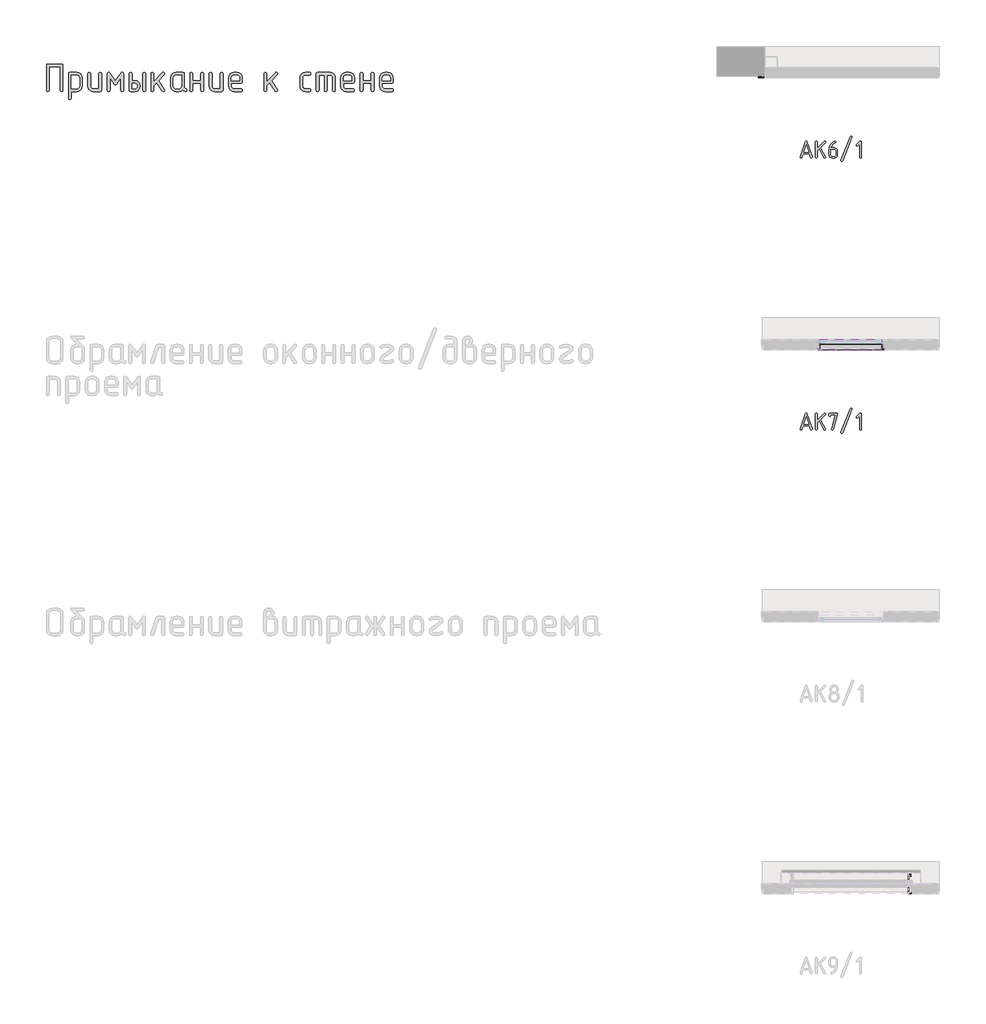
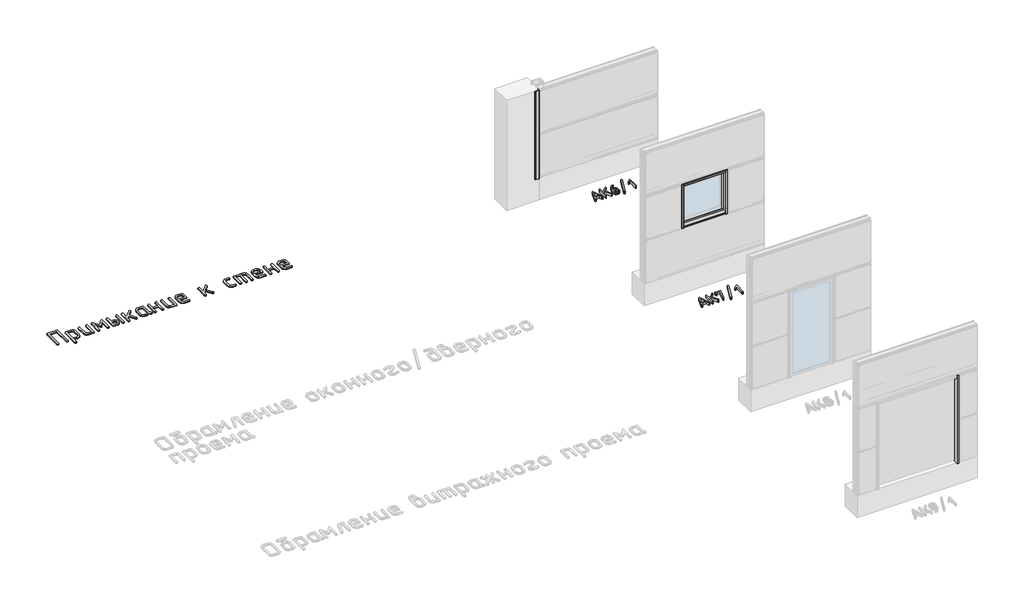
# One storey, part 8 of 37: 9 proxies.
"""IFC4 building model written with IfcOpenShell, lengths in millimetres."""

from ifc_helpers import new_model, si_unit, origin, origin_with_axes, place, context, project, spatial, polyline, outline, extrude, transform, mapped, element, save
from components import generic_models_95d36169, generic_models_f476a873, generic_models_40eecb82, generic_models_c30bbdda, generic_models_594ef7aa, generic_models_743b026b

model = new_model("IFC4")

# Units and contexts
model_context = context("Model", 3, world=origin())
ifc_project = project(units=[si_unit("LENGTHUNIT", "METRE", prefix="MILLI")], contexts=[model_context])

# Site, building, storey
site = spatial("IfcSite", under=ifc_project)
building = spatial("IfcBuilding", under=site)
storey = spatial("IfcBuildingStorey", under=building, Name="Этаж 01", Elevation=0.0)

# Proxies
placement = place(None, origin())
element("IfcBuildingElementProxy", 1, Name="250 мм ГОСТ 2.304", ObjectType="250 мм ГОСТ 2.304", at=placement, inside=storey, context=model_context, shape_type="SweptSolid", body=[
    extrude(outline(polyline([(46420.8154984, -34426.1300608), (46402.9821438, -34480.0681368), (46398.7740979, -34486.3567408), (46391.2809603, -34488.4529422), (46382.5207159, -34485.1678505), (46378.5160328, -34476.8143318), (46379.6423499, -34472.0587706), (46454.3547197, -34247.9216611), (46459.2667139, -34239.9905113), (46465.9933301, -34237.3467947), (46473.0953853, -34239.9905113), (46477.6319404, -34247.9216611), (46552.7197493, -34472.0587706), (46553.4706274, -34476.8143318), (46549.4659443, -34485.1678505), (46540.7056999, -34488.4529422), (46535.2618338, -34487.7646372), (46529.0670895, -34480.0681368), (46511.1711617, -34426.1300608), (46420.8154984, -34426.1300608)]), holes=[polyline([(46502.7863564, -34400.9756448), (46465.9933301, -34290.9720048), (46429.2003037, -34400.9756448), (46502.7863564, -34400.9756448)])]), origin_with_axes(), (0.0, 0.0, 1.0), 50.0),
    extrude(outline(polyline([(46626.4935215, -34347.4130078), (46731.0532954, -34243.5415389), (46739.8135397, -34239.5368558), (46748.7615036, -34243.385106), (46752.5784672, -34252.3017833), (46748.5737841, -34261.0620276), (46674.6122924, -34335.0235194), (46750.7638452, -34470.2441485), (46752.5784672, -34476.8143318), (46748.5737841, -34485.7310091), (46739.4381007, -34489.2038202), (46733.3528595, -34487.4674147), (46728.8632343, -34482.2581979), (46656.0280597, -34352.1685691), (46626.4935215, -34381.3276682), (46626.4935215, -34476.4388927), (46623.0207104, -34485.7310091), (46614.1040331, -34488.8283812), (46605.1560692, -34485.5432896), (46601.3391055, -34476.4388927), (46601.3391055, -34252.3017833), (46605.1560692, -34243.1973865), (46614.1040331, -34239.9122948), (46622.6765579, -34243.1973865), (46626.4935215, -34252.3017833), (46626.4935215, -34347.4130078)])), origin_with_axes(), (0.0, 0.0, 1.0), 50.0),
    extrude(outline(polyline([(46831.4832397, -34339.4036416), (46876.2856323, -34339.4036416), (46895.6989596, -34342.9546692), (46911.6394757, -34353.6077521), (46922.5741378, -34369.8298474), (46926.2190252, -34389.3370345), (46926.2190252, -34438.8949883), (46922.5741378, -34458.4021753), (46911.6394757, -34474.6242707), (46895.6989596, -34485.2773536), (46876.2856323, -34488.8283812), (46851.5066554, -34488.8283812), (46832.2810477, -34485.2773536), (46816.1528121, -34474.6242707), (46805.2181499, -34458.4021753), (46801.5732625, -34438.8949883), (46801.5732625, -34376.5721069), (46804.9522139, -34341.9534984), (46815.0890681, -34309.5562375), (46826.9623279, -34287.8198812), (46842.9341306, -34268.5395219), (46862.2848846, -34252.5442543), (46884.2949986, -34240.6631729), (46889.4259989, -34239.5368558), (46897.9672371, -34243.385106), (46901.4400483, -34252.3017833), (46899.5315665, -34258.9814696), (46893.8061211, -34263.6275278), (46875.8163335, -34273.1190961), (46860.5171925, -34285.5750686), (46847.9086979, -34300.9954452), (46837.9908498, -34319.3802259), (46831.4832397, -34339.4036416)]), holes=[polyline([(46827.1031175, -34364.1826185), (46827.1031175, -34438.8949883), (46828.8317015, -34448.6485818), (46834.0174533, -34456.7596295), (46841.8469217, -34462.2269606), (46851.5066554, -34464.0494043), (46876.2856323, -34464.0494043), (46886.0392258, -34462.2269606), (46894.1502735, -34456.7596295), (46899.6176046, -34448.6485818), (46901.4400483, -34438.8949883), (46901.4400483, -34389.3370345), (46899.6176046, -34379.5834409), (46894.1502735, -34371.4723933), (46886.0392258, -34366.0050622), (46876.2856323, -34364.1826185), (46827.1031175, -34364.1826185)])]), origin_with_axes(), (0.0, 0.0, 1.0), 50.0),
    extrude(outline(polyline([(47139.2181097, -34181.9695356), (47002.1828585, -34530.7524078), (46997.4585839, -34536.571713), (46990.9196872, -34538.7617741), (46981.7840038, -34535.2889629), (46977.7793206, -34526.3722856), (46978.5301987, -34521.6167244), (47115.5654499, -34172.8964254), (47120.2897245, -34167.014547), (47126.8286212, -34164.824486), (47135.9643046, -34168.4850166), (47139.9689878, -34177.2139744), (47139.2181097, -34181.9695356)])), origin_with_axes(), (0.0, 0.0, 1.0), 50.0),
    extrude(outline(polyline([(47276.7539463, -34476.4388927), (47273.2811351, -34485.7310091), (47264.3644578, -34488.8283812), (47255.791933, -34485.5432896), (47251.9749693, -34476.4388927), (47251.9749693, -34282.2117605), (47223.1913093, -34310.6199815), (47214.806504, -34314.6246646), (47205.8585401, -34310.807701), (47202.0415764, -34301.8597371), (47206.0462596, -34293.1620659), (47255.6042134, -34243.5415389), (47266.5545189, -34238.0976728), (47273.8442937, -34241.7582035), (47276.7539463, -34252.3017833), (47276.7539463, -34476.4388927)])), origin_with_axes(), (0.0, 0.0, 1.0), 50.0),
])
element("IfcBuildingElementProxy", 2, Name="250 мм ГОСТ 2.304", ObjectType="250 мм ГОСТ 2.304", at=placement, inside=storey, context=model_context, shape_type="SweptSolid", body=[
    extrude(outline(polyline([(46420.8154984, -38426.1300608), (46402.9821438, -38480.0681368), (46398.7740979, -38486.3567408), (46391.2809603, -38488.4529422), (46382.5207159, -38485.1678505), (46378.5160328, -38476.8143318), (46379.6423499, -38472.0587706), (46454.3547197, -38247.9216611), (46459.2667139, -38239.9905113), (46465.9933301, -38237.3467947), (46473.0953853, -38239.9905113), (46477.6319404, -38247.9216611), (46552.7197493, -38472.0587706), (46553.4706274, -38476.8143318), (46549.4659443, -38485.1678505), (46540.7056999, -38488.4529422), (46535.2618338, -38487.7646372), (46529.0670895, -38480.0681368), (46511.1711617, -38426.1300608), (46420.8154984, -38426.1300608)]), holes=[polyline([(46502.7863564, -38400.9756448), (46465.9933301, -38290.9720048), (46429.2003037, -38400.9756448), (46502.7863564, -38400.9756448)])]), origin_with_axes(), (0.0, 0.0, 1.0), 50.0),
    extrude(outline(polyline([(46626.4935215, -38347.4130078), (46731.0532954, -38243.5415389), (46739.8135397, -38239.5368558), (46748.7615036, -38243.385106), (46752.5784672, -38252.3017833), (46748.5737841, -38261.0620276), (46674.6122924, -38335.0235194), (46750.7638452, -38470.2441485), (46752.5784672, -38476.8143318), (46748.5737841, -38485.7310091), (46739.4381007, -38489.2038202), (46733.3528595, -38487.4674147), (46728.8632343, -38482.2581979), (46656.0280597, -38352.1685691), (46626.4935215, -38381.3276682), (46626.4935215, -38476.4388927), (46623.0207104, -38485.7310091), (46614.1040331, -38488.8283812), (46605.1560692, -38485.5432896), (46601.3391055, -38476.4388927), (46601.3391055, -38252.3017833), (46605.1560692, -38243.1973865), (46614.1040331, -38239.9122948), (46622.6765579, -38243.1973865), (46626.4935215, -38252.3017833), (46626.4935215, -38347.4130078)])), origin_with_axes(), (0.0, 0.0, 1.0), 50.0),
    extrude(outline(polyline([(46826.7276785, -38264.6912717), (46826.7276785, -38277.0807602), (46823.2548673, -38286.3728766), (46814.33819, -38289.4702487), (46805.3902261, -38286.185157), (46801.5732625, -38277.0807602), (46801.5732625, -38252.3017833), (46804.7644944, -38242.7280877), (46814.33819, -38239.5368558), (46913.8295368, -38239.5368558), (46923.4032324, -38242.0867126), (46926.5944643, -38249.7362831), (46926.4067447, -38252.5207894), (46925.8435862, -38255.6181615), (46863.5207048, -38479.6926978), (46859.3283022, -38486.5444603), (46851.8820945, -38488.8283812), (46842.746411, -38485.5432896), (46839.1171669, -38476.8143318), (46839.492606, -38473.1850877), (46897.4353652, -38264.6912717), (46826.7276785, -38264.6912717)])), origin_with_axes(), (0.0, 0.0, 1.0), 50.0),
    extrude(outline(polyline([(47139.2181097, -38181.9695356), (47002.1828585, -38530.7524078), (46997.4585839, -38536.571713), (46990.9196872, -38538.7617741), (46981.7840038, -38535.2889629), (46977.7793206, -38526.3722856), (46978.5301987, -38521.6167244), (47115.5654499, -38172.8964254), (47120.2897245, -38167.014547), (47126.8286212, -38164.824486), (47135.9643046, -38168.4850166), (47139.9689878, -38177.2139744), (47139.2181097, -38181.9695356)])), origin_with_axes(), (0.0, 0.0, 1.0), 50.0),
    extrude(outline(polyline([(47276.7539463, -38476.4388927), (47273.2811351, -38485.7310091), (47264.3644578, -38488.8283812), (47255.791933, -38485.5432896), (47251.9749693, -38476.4388927), (47251.9749693, -38282.2117605), (47223.1913093, -38310.6199815), (47214.806504, -38314.6246646), (47205.8585401, -38310.807701), (47202.0415764, -38301.8597371), (47206.0462596, -38293.1620659), (47255.6042134, -38243.5415389), (47266.5545189, -38238.0976728), (47273.8442937, -38241.7582035), (47276.7539463, -38252.3017833), (47276.7539463, -38476.4388927)])), origin_with_axes(), (0.0, 0.0, 1.0), 50.0),
])
element("IfcBuildingElementProxy", 3, Name="400 мм ГОСТ 2.304", ObjectType="400 мм ГОСТ 2.304", at=placement, inside=storey, context=model_context, shape_type="SweptSolid", body=[
    extrude(outline(polyline([(35529.9614469, -33490.1102375), (35528.5584312, -33498.8696058), (35524.3493841, -33505.1262975), (35509.9400336, -33510.1316508), (35496.0868334, -33504.8229428), (35491.4606735, -33498.4904124), (35489.9186202, -33490.1102375), (35489.9186202, -33147.926082), (35329.1406039, -33147.926082), (35329.1406039, -33490.1102375), (35327.7375882, -33498.8696058), (35323.528541, -33505.1262975), (35309.1191905, -33510.1316508), (35294.6592809, -33504.8229428), (35290.033121, -33498.4904124), (35288.4910677, -33490.1102375), (35288.4910677, -33127.9046686), (35289.7803253, -33118.8798649), (35293.6480984, -33112.4335765), (35300.0943868, -33108.5658034), (35309.1191905, -33107.2765458), (35509.9400336, -33107.2765458), (35518.6994019, -33108.5658034), (35524.9560936, -33112.4335765), (35529.9614469, -33127.9046686), (35529.9614469, -33490.1102375)])), origin_with_axes(), (0.0, 0.0, 1.0), 20.0),
    extrude(outline(polyline([(35652.7190015, -33510.1316508), (35652.7190015, -33610.8454271), (35651.3159858, -33619.6047955), (35647.1069387, -33625.8614871), (35632.6975882, -33630.8668405), (35618.2376785, -33625.5581324), (35613.6115186, -33619.225602), (35612.0694653, -33610.8454271), (35612.0694653, -33248.6398582), (35613.358723, -33239.8804899), (35617.226496, -33233.6237982), (35632.6975882, -33228.6184449), (35732.8046549, -33228.6184449), (35764.1765918, -33234.3569055), (35789.9364658, -33251.5722875), (35807.6068798, -33277.6355162), (35813.4970179, -33308.7040983), (35813.4970179, -33429.4392879), (35807.6068798, -33460.9629021), (35800.2442073, -33474.7339437), (35789.9364658, -33487.1778083), (35764.1765918, -33504.3931902), (35732.8046549, -33510.1316508), (35652.7190015, -33510.1316508)]), holes=[polyline([(35652.7190015, -33470.0888241), (35732.8046549, -33470.0888241), (35748.566462, -33467.1437551), (35761.6739151, -33458.3085481), (35770.5091221, -33445.201095), (35773.4541911, -33429.4392879), (35773.4541911, -33308.7040983), (35770.5091221, -33293.3973233), (35761.6739151, -33280.4415476), (35748.566462, -33271.6063406), (35732.8046549, -33268.6612716), (35652.7190015, -33268.6612716), (35652.7190015, -33470.0888241)])]), origin_with_axes(), (0.0, 0.0, 1.0), 20.0),
    extrude(outline(polyline([(36098.2460078, -33490.1102375), (36093.2406545, -33505.1262975), (36078.2245944, -33510.1316508), (35977.5108182, -33510.1316508), (35946.4422361, -33504.3931902), (35920.3790073, -33487.1778083), (35910.0712658, -33474.7339437), (35902.7085933, -33460.9629021), (35896.8184553, -33429.4392879), (35896.8184553, -33248.6398582), (35898.2973097, -33240.2596833), (35902.7338728, -33233.927153), (35917.4465781, -33228.6184449), (35931.2997783, -33233.6237982), (35935.9259382, -33239.8804899), (35937.4679915, -33248.6398582), (35937.4679915, -33429.4392879), (35940.3372218, -33445.201095), (35948.9449128, -33458.3085481), (35961.8248498, -33467.1437551), (35977.5108182, -33470.0888241), (36058.2031811, -33470.0888241), (36058.2031811, -33248.6398582), (36059.6693957, -33240.2596833), (36064.0680395, -33233.927153), (36078.2245944, -33228.6184449), (36092.3305902, -33233.6237982), (36096.7671534, -33239.8804899), (36098.2460078, -33248.6398582), (36098.2460078, -33490.1102375)])), origin_with_axes(), (0.0, 0.0, 1.0), 20.0),
    extrude(outline(polyline([(36423.0378244, -33490.1102375), (36421.55897, -33498.4904124), (36417.1224069, -33504.8229428), (36403.0164111, -33510.1316508), (36388.5565014, -33505.1262975), (36384.3853737, -33498.8696058), (36382.9949977, -33490.1102375), (36382.9949977, -33311.029818), (36318.7849094, -33401.2272964), (36310.5184926, -33409.1145198), (36302.3026348, -33411.7435943), (36293.7834223, -33409.1145198), (36285.8203602, -33401.2272964), (36222.2169814, -33311.029818), (36222.2169814, -33490.1102375), (36220.6749281, -33498.4904124), (36216.0487682, -33504.8229428), (36202.195568, -33510.1316508), (36187.179508, -33505.1262975), (36182.9704609, -33498.8696058), (36181.5674452, -33490.1102375), (36181.5674452, -33248.6398582), (36186.5727985, -33231.2475194), (36192.2480603, -33226.6213595), (36199.2631388, -33225.0793062), (36209.6783185, -33228.037015), (36218.6778427, -33236.9101413), (36302.3026348, -33354.6117835), (36386.5341365, -33236.9101413), (36395.6347789, -33228.037015), (36405.3421308, -33225.0793062), (36412.3572094, -33226.6213595), (36418.0324711, -33231.2475194), (36423.0378244, -33248.6398582), (36423.0378244, -33490.1102375)])), origin_with_axes(), (0.0, 0.0, 1.0), 20.0),
    extrude(outline(polyline([(36746.6162221, -33490.1102375), (36745.2132064, -33498.8696058), (36741.0041593, -33505.1262975), (36726.5948087, -33510.1316508), (36712.7416086, -33504.8229428), (36708.1154487, -33498.4904124), (36706.5733954, -33490.1102375), (36706.5733954, -33248.6398582), (36708.03961, -33240.2596833), (36712.4382538, -33233.927153), (36726.5948087, -33228.6184449), (36740.7008045, -33233.6237982), (36745.1373677, -33239.8804899), (36746.6162221, -33248.6398582), (36746.6162221, -33490.1102375)])), origin_with_axes(), (0.0, 0.0, 1.0), 20.0),
    extrude(outline(polyline([(36545.7953791, -33349.3536345), (36585.8382058, -33349.3536345), (36603.9636519, -33350.9020077), (36620.1172923, -33355.5471273), (36634.2991267, -33363.2889932), (36646.5091553, -33374.1276056), (36661.5252153, -33398.825738), (36666.5305687, -33429.4392879), (36661.5252153, -33460.0781175), (36646.5091553, -33484.8520885), (36634.5266428, -33495.911897), (36620.420647, -33503.8117603), (36604.191168, -33508.5516782), (36585.8382058, -33510.1316508), (36525.7739657, -33510.1316508), (36510.3028736, -33505.1262975), (36506.4351005, -33498.8696058), (36505.1458428, -33490.1102375), (36505.1458428, -33248.6398582), (36506.6246972, -33240.2596833), (36511.0612604, -33233.927153), (36525.7739657, -33228.6184449), (36539.6271658, -33233.6237982), (36544.2533258, -33239.8804899), (36545.7953791, -33248.6398582), (36545.7953791, -33349.3536345)]), holes=[polyline([(36545.7953791, -33389.3964612), (36545.7953791, -33470.0888241), (36585.8382058, -33470.0888241), (36602.5985556, -33467.0679164), (36615.2636163, -33458.0051933), (36623.2266784, -33444.8219016), (36625.8810325, -33429.4392879), (36623.5300332, -33414.2715505), (36616.4770353, -33401.7328876), (36603.5086198, -33392.4805678), (36585.8382058, -33389.3964612), (36545.7953791, -33389.3964612)])]), origin_with_axes(), (0.0, 0.0, 1.0), 20.0),
    extrude(outline(polyline([(36910.0233129, -33378.1723356), (36865.2279285, -33425.2934397), (36865.2279285, -33490.1102375), (36863.8249128, -33498.8696058), (36859.6158657, -33505.1262975), (36845.2065151, -33510.1316508), (36831.1005194, -33504.8229428), (36826.6639562, -33498.4904124), (36825.1851018, -33490.1102375), (36825.1851018, -33248.6398582), (36826.5881175, -33240.2596833), (36830.7971646, -33233.927153), (36845.2065151, -33228.6184449), (36859.0597153, -33233.6237982), (36863.6858752, -33239.8804899), (36865.2279285, -33248.6398582), (36865.2279285, -33367.0493281), (36993.0413956, -33233.3710026), (36998.7545766, -33228.5173266), (37005.377822, -33226.8994346), (37013.1386476, -33228.5173266), (37019.8377316, -33233.3710026), (37024.4638915, -33240.4240005), (37026.0059448, -33248.6398582), (37019.5343769, -33264.0098321), (36938.2353045, -33348.746925), (37021.2533871, -33477.1671016), (37026.0059448, -33490.716947), (37024.3880528, -33498.7179285), (37019.5343769, -33505.1262975), (37005.377822, -33510.7383603), (36997.0102868, -33508.8171136), (36990.7156758, -33503.0533734), (36910.0233129, -33378.1723356)])), origin_with_axes(), (0.0, 0.0, 1.0), 20.0),
    extrude(outline(polyline([(37294.2726601, -33483.6386695), (37282.3407067, -33494.2813653), (37267.7796788, -33502.7500186), (37251.4490816, -33508.2862428), (37234.2084201, -33510.1316508), (37194.1655934, -33510.1316508), (37163.0970113, -33504.3931902), (37137.0337825, -33487.1778083), (37126.726041, -33474.7339437), (37119.3633685, -33460.9629021), (37113.4732304, -33429.4392879), (37113.4732304, -33308.7040983), (37119.3633685, -33278.0905483), (37137.0337825, -33252.178997), (37163.0970113, -33234.5085829), (37194.1655934, -33228.6184449), (37294.8793696, -33228.6184449), (37309.8954296, -33233.6237982), (37314.900783, -33248.6398582), (37314.900783, -33429.4392879), (37316.8093899, -33442.4709023), (37322.5352108, -33454.4660546), (37331.3704178, -33464.5399602), (37342.6071833, -33471.8078344), (37352.3145352, -33478.9113914), (37355.5503192, -33489.503528), (37349.9382564, -33504.2667924), (37343.5298873, -33509.1204684), (37335.5289058, -33510.7383603), (37327.2372094, -33508.4126406), (37308.6820107, -33497.7699449), (37294.2726601, -33483.6386695)]), holes=[polyline([(37274.8579563, -33429.4392879), (37274.8579563, -33268.6612716), (37194.1655934, -33268.6612716), (37178.4796249, -33271.6063406), (37165.5996879, -33280.4415476), (37156.991997, -33293.3973233), (37154.1227666, -33308.7040983), (37154.1227666, -33429.4392879), (37156.991997, -33445.201095), (37165.5996879, -33458.3085481), (37178.4796249, -33467.1437551), (37194.1655934, -33470.0888241), (37234.2084201, -33470.0888241), (37249.9702272, -33467.1437551), (37263.0776802, -33458.3085481), (37271.9128873, -33445.201095), (37274.8579563, -33429.4392879)])]), origin_with_axes(), (0.0, 0.0, 1.0), 20.0),
    extrude(outline(polyline([(37559.6069462, -33349.3536345), (37559.6069462, -33248.6398582), (37561.0731608, -33240.2596833), (37565.4718047, -33233.927153), (37579.6283596, -33228.6184449), (37593.7343553, -33233.6237982), (37598.1709185, -33239.8804899), (37599.6497729, -33248.6398582), (37599.6497729, -33490.1102375), (37598.2467572, -33498.8696058), (37594.0377101, -33505.1262975), (37579.6283596, -33510.1316508), (37565.4718047, -33504.8229428), (37561.0731608, -33498.4904124), (37559.6069462, -33490.1102375), (37559.6069462, -33389.3964612), (37438.8717566, -33389.3964612), (37438.8717566, -33490.1102375), (37437.4687409, -33498.8696058), (37433.2596938, -33505.1262975), (37418.8503432, -33510.1316508), (37404.3904336, -33504.8229428), (37399.7642737, -33498.4904124), (37398.2222204, -33490.1102375), (37398.2222204, -33248.6398582), (37399.7010748, -33240.2596833), (37404.137638, -33233.927153), (37418.8503432, -33228.6184449), (37432.7035434, -33233.6237982), (37437.3297033, -33239.8804899), (37438.8717566, -33248.6398582), (37438.8717566, -33349.3536345), (37559.6069462, -33349.3536345)])), origin_with_axes(), (0.0, 0.0, 1.0), 20.0),
    extrude(outline(polyline([(37884.3987629, -33490.1102375), (37879.3934095, -33505.1262975), (37864.3773495, -33510.1316508), (37763.6635732, -33510.1316508), (37732.5949911, -33504.3931902), (37706.5317624, -33487.1778083), (37696.2240209, -33474.7339437), (37688.8613483, -33460.9629021), (37682.9712103, -33429.4392879), (37682.9712103, -33248.6398582), (37684.4500647, -33240.2596833), (37688.8866279, -33233.927153), (37703.5993332, -33228.6184449), (37717.4525333, -33233.6237982), (37722.0786932, -33239.8804899), (37723.6207465, -33248.6398582), (37723.6207465, -33429.4392879), (37726.4899768, -33445.201095), (37735.0976678, -33458.3085481), (37747.9776048, -33467.1437551), (37763.6635732, -33470.0888241), (37844.3559361, -33470.0888241), (37844.3559361, -33248.6398582), (37845.8221508, -33240.2596833), (37850.2207946, -33233.927153), (37864.3773495, -33228.6184449), (37878.4833453, -33233.6237982), (37882.9199085, -33239.8804899), (37884.3987629, -33248.6398582), (37884.3987629, -33490.1102375)])), origin_with_axes(), (0.0, 0.0, 1.0), 20.0),
    extrude(outline(polyline([(38008.3697365, -33389.3964612), (38008.3697365, -33429.4392879), (38011.2389668, -33445.201095), (38019.8466578, -33458.3085481), (38032.7265948, -33467.1437551), (38048.4125632, -33470.0888241), (38149.1263394, -33470.0888241), (38157.8857078, -33471.4918398), (38164.1423995, -33475.700887), (38169.1477528, -33490.1102375), (38163.8390447, -33503.9634376), (38157.5065143, -33508.5895975), (38149.1263394, -33510.1316508), (38048.4125632, -33510.1316508), (38017.3439811, -33504.3931902), (37991.2807523, -33487.1778083), (37980.9730108, -33474.7339437), (37973.6103383, -33460.9629021), (37967.7202003, -33429.4392879), (37967.7202003, -33308.7040983), (37973.6103383, -33277.7871936), (37980.9730108, -33264.3195068), (37991.2807523, -33252.178997), (38017.3439811, -33234.5085829), (38048.4125632, -33228.6184449), (38088.4553899, -33228.6184449), (38119.8273267, -33234.3569055), (38145.5872007, -33251.5722875), (38163.2576148, -33277.6355162), (38169.1477528, -33308.7040983), (38169.1477528, -33369.3750479), (38164.1423995, -33384.3911079), (38149.1263394, -33389.3964612), (38008.3697365, -33389.3964612)]), holes=[polyline([(38008.3697365, -33349.3536345), (38129.1049261, -33349.3536345), (38129.1049261, -33308.7040983), (38126.1598571, -33293.3973233), (38117.32465, -33280.4415476), (38104.217197, -33271.6063406), (38088.4553899, -33268.6612716), (38048.4125632, -33268.6612716), (38032.7265948, -33271.6063406), (38019.8466578, -33280.4415476), (38011.2389668, -33293.3973233), (38008.3697365, -33308.7040983), (38008.3697365, -33349.3536345)])]), origin_with_axes(), (0.0, 0.0, 1.0), 20.0),
    extrude(outline(polyline([(38573.2162769, -33378.1723356), (38528.4208924, -33425.2934397), (38528.4208924, -33490.1102375), (38527.0178767, -33498.8696058), (38522.8088296, -33505.1262975), (38508.3994791, -33510.1316508), (38494.2934833, -33504.8229428), (38489.8569201, -33498.4904124), (38488.3780657, -33490.1102375), (38488.3780657, -33248.6398582), (38489.7810814, -33240.2596833), (38493.9901286, -33233.927153), (38508.3994791, -33228.6184449), (38522.2526792, -33233.6237982), (38526.8788391, -33239.8804899), (38528.4208924, -33248.6398582), (38528.4208924, -33367.0493281), (38656.2343595, -33233.3710026), (38661.9475406, -33228.5173266), (38668.5707859, -33226.8994346), (38676.3316116, -33228.5173266), (38683.0306956, -33233.3710026), (38687.6568555, -33240.4240005), (38689.1989088, -33248.6398582), (38682.7273408, -33264.0098321), (38601.4282684, -33348.746925), (38684.4463511, -33477.1671016), (38689.1989088, -33490.716947), (38687.5810168, -33498.7179285), (38682.7273408, -33505.1262975), (38668.5707859, -33510.7383603), (38660.2032508, -33508.8171136), (38653.9086398, -33503.0533734), (38573.2162769, -33378.1723356)])), origin_with_axes(), (0.0, 0.0, 1.0), 20.0),
    extrude(outline(polyline([(39157.4775211, -33510.1316508), (39096.8065716, -33510.1316508), (39065.7379895, -33504.3931902), (39039.6747607, -33487.1778083), (39029.3670192, -33474.7339437), (39022.0043467, -33460.9629021), (39016.1142087, -33429.4392879), (39016.1142087, -33308.7040983), (39022.0043467, -33278.0905483), (39039.6747607, -33252.178997), (39065.7379895, -33234.5085829), (39096.8065716, -33228.6184449), (39157.4775211, -33228.6184449), (39166.2368895, -33230.0214606), (39172.4935812, -33234.2305077), (39177.4989345, -33248.6398582), (39172.1902264, -33262.4930584), (39165.857696, -33267.1192183), (39157.4775211, -33268.6612716), (39096.8065716, -33268.6612716), (39081.1206032, -33271.6063406), (39068.2406662, -33280.4415476), (39059.6329752, -33293.3973233), (39056.7637449, -33308.7040983), (39056.7637449, -33429.4392879), (39059.6329752, -33445.201095), (39068.2406662, -33458.3085481), (39081.1206032, -33467.1437551), (39096.8065716, -33470.0888241), (39157.4775211, -33470.0888241), (39166.2368895, -33471.4918398), (39172.4935812, -33475.700887), (39177.4989345, -33490.1102375), (39172.1902264, -33503.9634376), (39165.857696, -33508.5895975), (39157.4775211, -33510.1316508)])), origin_with_axes(), (0.0, 0.0, 1.0), 20.0),
    extrude(outline(polyline([(39376.2974126, -33268.6612716), (39296.2117591, -33268.6612716), (39296.2117591, -33490.1102375), (39294.8087434, -33498.8696058), (39290.5996963, -33505.1262975), (39276.1903458, -33510.1316508), (39261.7304361, -33504.8229428), (39257.1042762, -33498.4904124), (39255.5622229, -33490.1102375), (39255.5622229, -33248.6398582), (39256.8514806, -33239.8804899), (39260.7192536, -33233.6237982), (39276.1903458, -33228.6184449), (39456.9897755, -33228.6184449), (39488.3617123, -33234.3569055), (39514.1215863, -33251.5722875), (39531.7920004, -33277.6355162), (39537.6821384, -33308.7040983), (39537.6821384, -33490.1102375), (39536.2791227, -33498.8696058), (39532.0700755, -33505.1262975), (39517.660725, -33510.1316508), (39503.2008154, -33504.8229428), (39498.5746555, -33498.4904124), (39497.0326022, -33490.1102375), (39497.0326022, -33308.7040983), (39494.1633719, -33293.3973233), (39485.5556809, -33280.4415476), (39472.6757439, -33271.6063406), (39456.9897755, -33268.6612716), (39416.9469488, -33268.6612716), (39416.9469488, -33490.1102375), (39415.543933, -33498.8696058), (39411.3348859, -33505.1262975), (39396.9255354, -33510.1316508), (39382.4656258, -33504.8229428), (39377.8394659, -33498.4904124), (39376.2974126, -33490.1102375), (39376.2974126, -33268.6612716)])), origin_with_axes(), (0.0, 0.0, 1.0), 20.0),
    extrude(outline(polyline([(39658.6195645, -33389.3964612), (39658.6195645, -33429.4392879), (39661.4887948, -33445.201095), (39670.0964858, -33458.3085481), (39682.9764228, -33467.1437551), (39698.6623912, -33470.0888241), (39799.3761675, -33470.0888241), (39808.1355358, -33471.4918398), (39814.3922275, -33475.700887), (39819.3975808, -33490.1102375), (39814.0888728, -33503.9634376), (39807.7563424, -33508.5895975), (39799.3761675, -33510.1316508), (39698.6623912, -33510.1316508), (39667.5938091, -33504.3931902), (39641.5305804, -33487.1778083), (39631.2228388, -33474.7339437), (39623.8601663, -33460.9629021), (39617.9700283, -33429.4392879), (39617.9700283, -33308.7040983), (39623.8601663, -33277.7871936), (39631.2228388, -33264.3195068), (39641.5305804, -33252.178997), (39667.5938091, -33234.5085829), (39698.6623912, -33228.6184449), (39738.7052179, -33228.6184449), (39770.0771548, -33234.3569055), (39795.8370288, -33251.5722875), (39813.5074428, -33277.6355162), (39819.3975808, -33308.7040983), (39819.3975808, -33369.3750479), (39814.3922275, -33384.3911079), (39799.3761675, -33389.3964612), (39658.6195645, -33389.3964612)]), holes=[polyline([(39658.6195645, -33349.3536345), (39779.3547541, -33349.3536345), (39779.3547541, -33308.7040983), (39776.4096851, -33293.3973233), (39767.5744781, -33280.4415476), (39754.467025, -33271.6063406), (39738.7052179, -33268.6612716), (39698.6623912, -33268.6612716), (39682.9764228, -33271.6063406), (39670.0964858, -33280.4415476), (39661.4887948, -33293.3973233), (39658.6195645, -33308.7040983), (39658.6195645, -33349.3536345)])]), origin_with_axes(), (0.0, 0.0, 1.0), 20.0),
    extrude(outline(polyline([(40064.1037441, -33349.3536345), (40064.1037441, -33248.6398582), (40065.5699587, -33240.2596833), (40069.9686025, -33233.927153), (40084.1251574, -33228.6184449), (40098.2311532, -33233.6237982), (40102.6677164, -33239.8804899), (40104.1465708, -33248.6398582), (40104.1465708, -33490.1102375), (40102.7435551, -33498.8696058), (40098.5345079, -33505.1262975), (40084.1251574, -33510.1316508), (40069.9686025, -33504.8229428), (40065.5699587, -33498.4904124), (40064.1037441, -33490.1102375), (40064.1037441, -33389.3964612), (39943.3685544, -33389.3964612), (39943.3685544, -33490.1102375), (39941.9655387, -33498.8696058), (39937.7564916, -33505.1262975), (39923.3471411, -33510.1316508), (39908.8872314, -33504.8229428), (39904.2610715, -33498.4904124), (39902.7190182, -33490.1102375), (39902.7190182, -33248.6398582), (39904.1978726, -33240.2596833), (39908.6344358, -33233.927153), (39923.3471411, -33228.6184449), (39937.2003412, -33233.6237982), (39941.8265011, -33239.8804899), (39943.3685544, -33248.6398582), (39943.3685544, -33349.3536345), (40064.1037441, -33349.3536345)])), origin_with_axes(), (0.0, 0.0, 1.0), 20.0),
    extrude(outline(polyline([(40228.1175444, -33389.3964612), (40228.1175444, -33429.4392879), (40230.9867747, -33445.201095), (40239.5944657, -33458.3085481), (40252.4744027, -33467.1437551), (40268.1603711, -33470.0888241), (40368.8741474, -33470.0888241), (40377.6335157, -33471.4918398), (40383.8902074, -33475.700887), (40388.8955607, -33490.1102375), (40383.5868526, -33503.9634376), (40377.2543223, -33508.5895975), (40368.8741474, -33510.1316508), (40268.1603711, -33510.1316508), (40237.091789, -33504.3931902), (40211.0285603, -33487.1778083), (40200.7208187, -33474.7339437), (40193.3581462, -33460.9629021), (40187.4680082, -33429.4392879), (40187.4680082, -33308.7040983), (40193.3581462, -33277.7871936), (40200.7208187, -33264.3195068), (40211.0285603, -33252.178997), (40237.091789, -33234.5085829), (40268.1603711, -33228.6184449), (40308.2031978, -33228.6184449), (40339.5751346, -33234.3569055), (40365.3350086, -33251.5722875), (40383.0054227, -33277.6355162), (40388.8955607, -33308.7040983), (40388.8955607, -33369.3750479), (40383.8902074, -33384.3911079), (40368.8741474, -33389.3964612), (40228.1175444, -33389.3964612)]), holes=[polyline([(40228.1175444, -33349.3536345), (40348.852734, -33349.3536345), (40348.852734, -33308.7040983), (40345.907665, -33293.3973233), (40337.072458, -33280.4415476), (40323.9650049, -33271.6063406), (40308.2031978, -33268.6612716), (40268.1603711, -33268.6612716), (40252.4744027, -33271.6063406), (40239.5944657, -33280.4415476), (40230.9867747, -33293.3973233), (40228.1175444, -33308.7040983), (40228.1175444, -33349.3536345)])]), origin_with_axes(), (0.0, 0.0, 1.0), 20.0),
])
generic_models_shape = generic_models_95d36169(model_context)
element("IfcBuildingElementProxy", 4, Name="АК6_1 Примыкание к стене : АК6_1 Примыкание к стене", ObjectType="АК6_1 Примыкание к стене : АК6_1 Примыкание к стене", at=placement, inside=storey, context=model_context, shape_type="MappedRepresentation", body=[
    mapped(generic_models_shape, transform((45856.2069431, -33285.1316508, 2024.570074), x_axis=(0.0, 0.0, -1.0), y_axis=(1.0, 0.0, 0.0), z_axis=(0.0, -1.0, 0.0))),
])
generic_models_2_shape = generic_models_f476a873(model_context)
element("IfcBuildingElementProxy", 5, Name="АК7_1 бок Обрамление оконного_дверного проема : АК7_1 бок Обрамление оконного_дверного проема", ObjectType="АК7_1 бок Обрамление оконного_дверного проема : АК7_1 бок Обрамление оконного_дверного проема", at=placement, inside=storey, context=model_context, shape_type="MappedRepresentation", body=[
    mapped(generic_models_2_shape, transform((46623.7069431, -37285.1316508, 2021.9741576), x_axis=(0.0, 0.0, -1.0), y_axis=(1.0, 0.0, 0.0), z_axis=(0.0, -1.0, 0.0))),
])
generic_models_3_shape = generic_models_40eecb82(model_context)
element("IfcBuildingElementProxy", 6, Name="АК7_1 бок Обрамление оконного_дверного проема : АК7_1 бок Обрамление оконного_дверного проема", ObjectType="АК7_1 бок Обрамление оконного_дверного проема : АК7_1 бок Обрамление оконного_дверного проема", at=placement, inside=storey, context=model_context, shape_type="MappedRepresentation", body=[
    mapped(generic_models_3_shape, transform((47623.7069431, -37285.1316508, 2022.0045775), x_axis=(0.0, 0.0, -1.0), y_axis=(1.0, 0.0, 0.0), z_axis=(0.0, -1.0, 0.0))),
])
generic_models_4_shape = generic_models_c30bbdda(model_context)
element("IfcBuildingElementProxy", 7, Name="АК7_1 низ Обрамление оконного_дверного проема : АК7_1 низ Обрамление оконного_дверного проема", ObjectType="АК7_1 низ Обрамление оконного_дверного проема : АК7_1 низ Обрамление оконного_дверного проема", at=placement, inside=storey, context=model_context, shape_type="MappedRepresentation", body=[
    mapped(generic_models_4_shape, transform((46666.2069431, -37310.1316508, 993.319132), x_axis=(1.0, 0.0, 0.0), y_axis=(0.0, 0.0, 1.0), z_axis=(0.0, -1.0, 0.0))),
])
generic_models_5_shape = generic_models_594ef7aa(model_context)
element("IfcBuildingElementProxy", 8, Name="АК7_1 верх Обрамление оконного_дверного проема : АК7_1 верх Обрамление оконного_дверного проема", ObjectType="АК7_1 верх Обрамление оконного_дверного проема : АК7_1 верх Обрамление оконного_дверного проема", at=placement, inside=storey, context=model_context, shape_type="MappedRepresentation", body=[
    mapped(generic_models_5_shape, transform((46666.2069431, -37310.1316508, 2025.4122117), x_axis=(1.0, 0.0, 0.0), y_axis=(0.0, 0.0, 1.0), z_axis=(0.0, -1.0, 0.0))),
])
generic_models_6_shape = generic_models_743b026b(model_context)
element("IfcBuildingElementProxy", 9, Name="АК9_1 бок Обрамление проема под монтаж рулонных ворот : АК9_1 бок Обрамление проема под монтаж рулонных ворот", ObjectType="АК9_1 бок Обрамление проема под монтаж рулонных ворот : АК9_1 бок Обрамление проема под монтаж рулонных ворот", at=placement, inside=storey, context=model_context, shape_type="MappedRepresentation", body=[
    mapped(generic_models_6_shape, transform((48023.7069431, -45285.1316508, 0.0), x_axis=(0.0, 0.0, 1.0), y_axis=(-1.0, 0.0, 0.0), z_axis=(0.0, -1.0, 0.0))),
])

save(model, "model.ifc")
